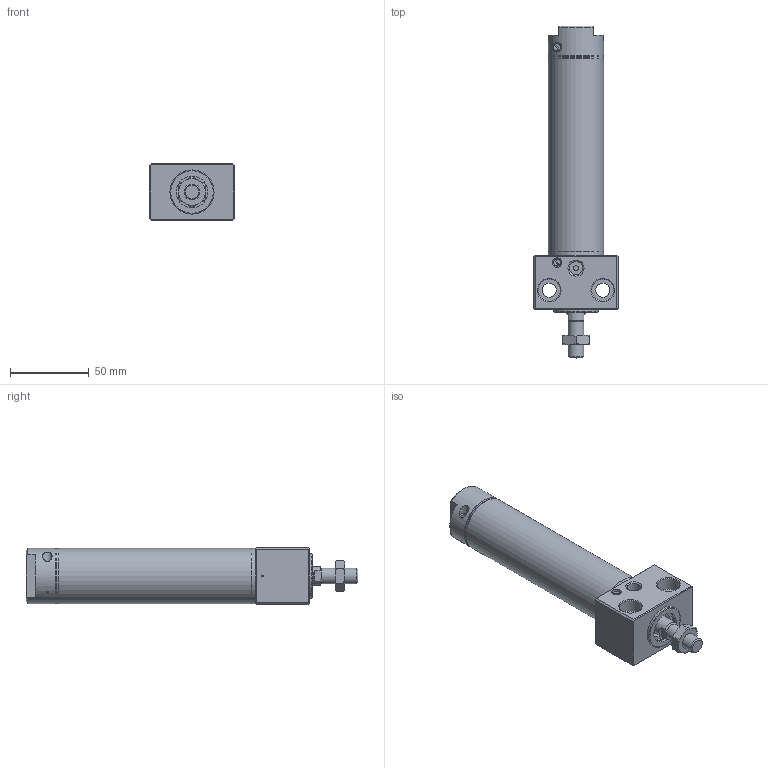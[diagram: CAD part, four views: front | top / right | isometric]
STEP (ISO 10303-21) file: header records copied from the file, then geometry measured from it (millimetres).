
FILE_DESCRIPTION((''),'2;1');
FILE_NAME('I:\3D電子目錄\氣缸\DBS\DBS\DBS30x75-C.stp','2007-10-08T08:43:14',('Administrator'),(''),'Autodesk Inventor 2008','Autodesk Inventor 2008','');
FILE_SCHEMA(('AUTOMOTIVE_DESIGN { 1 0 10303 214 1 1 1 1 }'));
Length unit declared in the file: millimetre
Products named in the file (1): DBS30x75-C
Bounding box: 54 x 210.6 x 36 mm (x, y, z)
Volume: 123485 mm3; surface area: 53608.8 mm2
Topology: 8 solids, 8 shells, 207 faces, 423 edges, 258 vertices
Faces by surface type: plane 93, cone 50, cylinder 48, bspline 13, torus 3
Full cylindrical faces by diameter (mm): 1.2 x1, 1.9 x2, 3 x3, 3.3 x2, 4.6 x2, 5 x2, 6 x2, 6.5 x1, 8 x1, 9 x1, 10 x2, 12 x1, 12.5 x1, 14 x1, 16 x1, 17 x2, 20 x2, 21 x3, 24 x2, 28 x3, 28.5 x2, 30 x1, 32.2 x6, 35 x4
Entity records: 5397 total; most frequent: CARTESIAN_POINT 1440, DIRECTION 828, ORIENTED_EDGE 642, AXIS2_PLACEMENT_3D 364, EDGE_LOOP 349, EDGE_CURVE 321, VERTEX_POINT 246, FACE_OUTER_BOUND 207
